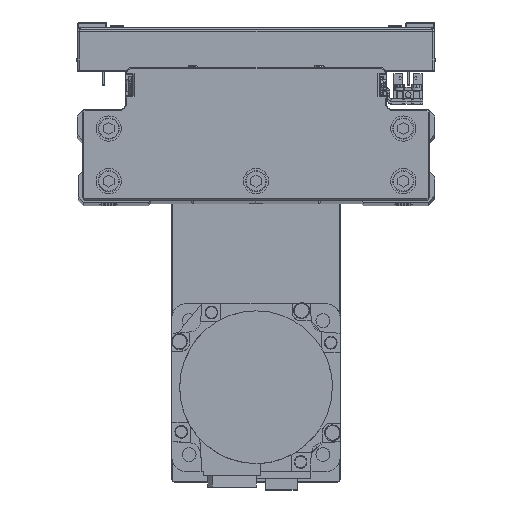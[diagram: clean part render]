
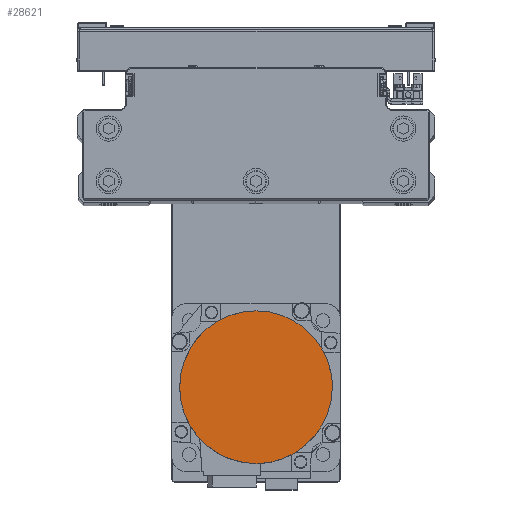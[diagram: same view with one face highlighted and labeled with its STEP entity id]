
A CAD part, top view. The second image highlights one B-rep face of the part: STEP entity #28621.
In plain terms, the highlighted planar face has unit normal (0, 0, 1) as drawn and (0, 0, -1) by its records, which use the part's own axes.
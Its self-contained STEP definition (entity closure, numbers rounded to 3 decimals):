
#682 = CARTESIAN_POINT ( 'NONE',  ( -28.862, 22.143, -122.2 ) ) ;
#1414 = CARTESIAN_POINT ( 'NONE',  ( -18.192, -31.502, -122.2 ) ) ;
#1416 = CIRCLE ( 'NONE', #7225, 36.3 ) ;
#1563 = CIRCLE ( 'NONE', #26916, 36.3 ) ;
#1782 = ORIENTED_EDGE ( 'NONE', *, *, #19912, .F. ) ;
#2501 = VERTEX_POINT ( 'NONE', #5629 ) ;
#4087 = CARTESIAN_POINT ( 'NONE',  ( -22.143, 28.862, -122.2 ) ) ;
#4461 = AXIS2_PLACEMENT_3D ( 'NONE', #12289, #26135, #39965 ) ;
#4820 = CARTESIAN_POINT ( 'NONE',  ( -27.348, -23.988, -122.2 ) ) ;
#5629 = CARTESIAN_POINT ( 'NONE',  ( 36.3, 0., -122.2 ) ) ;
#7066 = ORIENTED_EDGE ( 'NONE', *, *, #32895, .F. ) ;
#7225 = AXIS2_PLACEMENT_3D ( 'NONE', #8650, #22452, #36326 ) ;
#7296 = EDGE_LOOP ( 'NONE', ( #10495, #1782, #7066, #25200 ) ) ;
#7508 = CARTESIAN_POINT ( 'NONE',  ( -11.696, 34.446, -122.2 ) ) ;
#7709 = CARTESIAN_POINT ( 'NONE',  ( -36.3, 0., -122.2 ) ) ;
#8251 = CARTESIAN_POINT ( 'NONE',  ( -32.628, -16.086, -122.2 ) ) ;
#8650 = CARTESIAN_POINT ( 'NONE',  ( 0., 0., -122.2 ) ) ;
#9063 = VERTEX_POINT ( 'NONE', #27967 ) ;
#10495 = ORIENTED_EDGE ( 'NONE', *, *, #34965, .F. ) ;
#10530 = DIRECTION ( 'NONE',  ( 0., 0., 1. ) ) ;
#10869 = CARTESIAN_POINT ( 'NONE',  ( -2.376, 36.3, -122.2 ) ) ;
#11110 = CARTESIAN_POINT ( 'NONE',  ( -35.139, 9.412, -122.2 ) ) ;
#11616 = CARTESIAN_POINT ( 'NONE',  ( -36.066, -4.752, -122.2 ) ) ;
#11855 = CARTESIAN_POINT ( 'NONE',  ( -4.752, -36.066, -122.2 ) ) ;
#12289 = CARTESIAN_POINT ( 'NONE',  ( 0., 0., -122.2 ) ) ;
#14488 = CARTESIAN_POINT ( 'NONE',  ( -31.502, 18.192, -122.2 ) ) ;
#15239 = CARTESIAN_POINT ( 'NONE',  ( -16.086, -32.628, -122.2 ) ) ;
#17904 = CARTESIAN_POINT ( 'NONE',  ( -23.988, 27.348, -122.2 ) ) ;
#18651 = CARTESIAN_POINT ( 'NONE',  ( -23.988, -27.348, -122.2 ) ) ;
#19912 = EDGE_CURVE ( 'NONE', #9063, #33514, #25617, .T. ) ;
#21299 = CARTESIAN_POINT ( 'NONE',  ( -16.086, 32.628, -122.2 ) ) ;
#22041 = CARTESIAN_POINT ( 'NONE',  ( -31.502, -18.192, -122.2 ) ) ;
#22452 = DIRECTION ( 'NONE',  ( 0., 0., 1. ) ) ;
#24349 = DIRECTION ( 'NONE',  ( -1., 0., 0. ) ) ;
#24701 = CARTESIAN_POINT ( 'NONE',  ( -4.752, 36.066, -122.2 ) ) ;
#24935 = CARTESIAN_POINT ( 'NONE',  ( -36.066, 4.752, -122.2 ) ) ;
#25200 = ORIENTED_EDGE ( 'NONE', *, *, #31982, .F. ) ;
#25465 = CARTESIAN_POINT ( 'NONE',  ( -35.139, -9.412, -122.2 ) ) ;
#25617 = B_SPLINE_CURVE_WITH_KNOTS ( 'NONE', 3,
 ( #28862, #42676, #11616, #25465, #39292, #8251, #22041, #35898, #4820, #18651, #32502, #1414, #15239, #29099, #42919, #11855, #25693, #39502 ),
 .UNSPECIFIED., .F., .F.,
 ( 4, 2, 2, 2, 2, 2, 2, 2, 4 ),
 ( 0., 0.125, 0.25, 0.375, 0.5, 0.625, 0.75, 0.875, 1. ),
 .UNSPECIFIED. ) ;
#25693 = CARTESIAN_POINT ( 'NONE',  ( -2.376, -36.3, -122.2 ) ) ;
#26135 = DIRECTION ( 'NONE',  ( 0., 0., 1. ) ) ;
#26916 = AXIS2_PLACEMENT_3D ( 'NONE', #41598, #10530, #24349 ) ;
#27967 = CARTESIAN_POINT ( 'NONE',  ( -36.3, 0., -122.2 ) ) ;
#28348 = CARTESIAN_POINT ( 'NONE',  ( -32.628, 16.086, -122.2 ) ) ;
#28621 = ADVANCED_FACE ( 'NONE', ( #29536 ), #43357, .F. ) ;
#28862 = CARTESIAN_POINT ( 'NONE',  ( -36.3, 0., -122.2 ) ) ;
#29099 = CARTESIAN_POINT ( 'NONE',  ( -11.696, -34.446, -122.2 ) ) ;
#29347 = CARTESIAN_POINT ( 'NONE',  ( 0., 36.3, -122.2 ) ) ;
#29536 = FACE_OUTER_BOUND ( 'NONE', #7296, .T. ) ;
#31759 = CARTESIAN_POINT ( 'NONE',  ( -27.348, 23.988, -122.2 ) ) ;
#31982 = EDGE_CURVE ( 'NONE', #2501, #35760, #1563, .T. ) ;
#32502 = CARTESIAN_POINT ( 'NONE',  ( -22.143, -28.862, -122.2 ) ) ;
#32895 = EDGE_CURVE ( 'NONE', #35760, #9063, #34417, .T. ) ;
#33514 = VERTEX_POINT ( 'NONE', #41096 ) ;
#34417 = B_SPLINE_CURVE_WITH_KNOTS ( 'NONE', 3,
 ( #41933, #10869, #24701, #38546, #7508, #21299, #35159, #4087, #17904, #31759, #682, #14488, #28348, #42170, #11110, #24935, #38752, #7709 ),
 .UNSPECIFIED., .F., .F.,
 ( 4, 2, 2, 2, 2, 2, 2, 2, 4 ),
 ( 0., 0.125, 0.25, 0.375, 0.5, 0.625, 0.75, 0.875, 1. ),
 .UNSPECIFIED. ) ;
#34965 = EDGE_CURVE ( 'NONE', #33514, #2501, #1416, .T. ) ;
#35159 = CARTESIAN_POINT ( 'NONE',  ( -18.192, 31.502, -122.2 ) ) ;
#35760 = VERTEX_POINT ( 'NONE', #29347 ) ;
#35898 = CARTESIAN_POINT ( 'NONE',  ( -28.862, -22.143, -122.2 ) ) ;
#36326 = DIRECTION ( 'NONE',  ( -1., 0., 0. ) ) ;
#38546 = CARTESIAN_POINT ( 'NONE',  ( -9.412, 35.139, -122.2 ) ) ;
#38752 = CARTESIAN_POINT ( 'NONE',  ( -36.3, 2.376, -122.2 ) ) ;
#39292 = CARTESIAN_POINT ( 'NONE',  ( -34.446, -11.696, -122.2 ) ) ;
#39502 = CARTESIAN_POINT ( 'NONE',  ( 0., -36.3, -122.2 ) ) ;
#39965 = DIRECTION ( 'NONE',  ( 1., 0., 0. ) ) ;
#41096 = CARTESIAN_POINT ( 'NONE',  ( 0., -36.3, -122.2 ) ) ;
#41598 = CARTESIAN_POINT ( 'NONE',  ( 0., 0., -122.2 ) ) ;
#41933 = CARTESIAN_POINT ( 'NONE',  ( 0., 36.3, -122.2 ) ) ;
#42170 = CARTESIAN_POINT ( 'NONE',  ( -34.446, 11.696, -122.2 ) ) ;
#42676 = CARTESIAN_POINT ( 'NONE',  ( -36.3, -2.376, -122.2 ) ) ;
#42919 = CARTESIAN_POINT ( 'NONE',  ( -9.412, -35.139, -122.2 ) ) ;
#43357 = PLANE ( 'NONE',  #4461 ) ;
